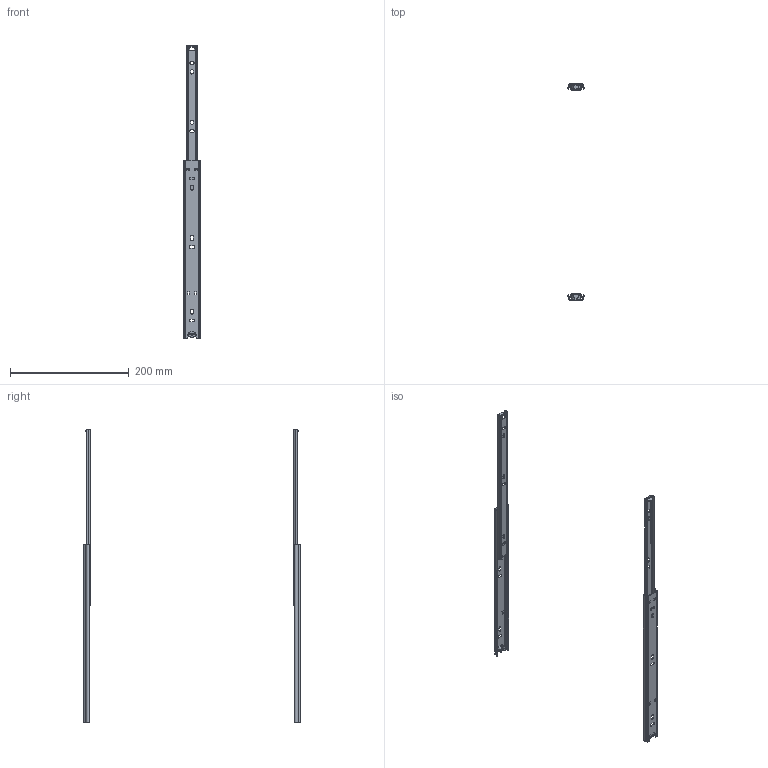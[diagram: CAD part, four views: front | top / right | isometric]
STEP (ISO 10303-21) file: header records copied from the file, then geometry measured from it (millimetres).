
FILE_DESCRIPTION(/* description */ (''),/* implementation_level */ '2;1');
FILE_NAME(/* name */ 'D:\$Workingspace\Designs\Katalog\Cadsoft\GTV Prowadnice\bry\X2\0142\X0\y\PK-0H27-3000_wysunieta.stp',/* time_stamp */ '2016-12-08T12:29:49+01:00',/* author */ ('tomaszw'),/* organization */ (''),/* preprocessor_version */ 'ST-DEVELOPER v16.1',/* originating_system */ 'Autodesk Inventor 2016',/* authorisation */ '');
FILE_SCHEMA (('AUTOMOTIVE_DESIGN { 1 0 10303 214 3 1 1 }'));
Length unit declared in the file: millimetre
Products named in the file (4): Blokada_1; PK-0H27_1-300; PK-0H27_2-300; PK-0H27
Assembly tree (6 placements, depth 2):
  PK-0H27
    Blokada_1  x2
    PK-0H27_1-300  x2
    PK-0H27_2-300  x2
Bounding box: 26.99 x 364 x 495 mm (x, y, z)
Volume: 39493.8 mm3; surface area: 81494.4 mm2
Topology: 6 solids, 6 shells, 318 faces, 912 edges, 604 vertices
Faces by surface type: plane 186, cylinder 132
Entity records: 5636 total; most frequent: CARTESIAN_POINT 1025, ORIENTED_EDGE 912, DIRECTION 912, EDGE_CURVE 456, LINE 318, VECTOR 318, VERTEX_POINT 302, AXIS2_PLACEMENT_3D 297
